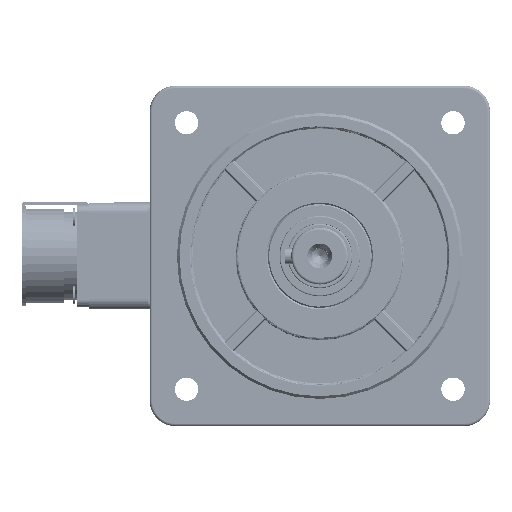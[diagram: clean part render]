
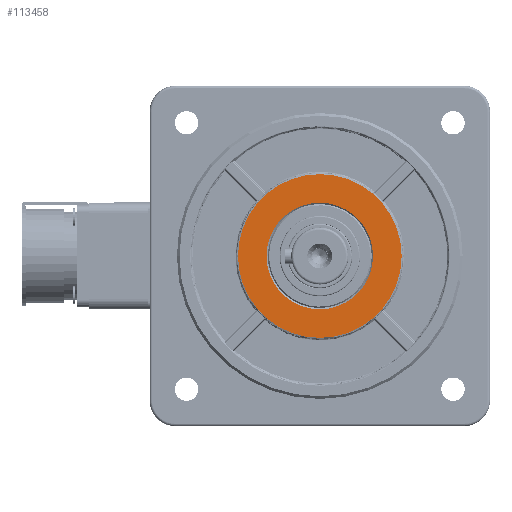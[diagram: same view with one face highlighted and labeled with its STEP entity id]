
A CAD part, left-side view. The second image highlights one B-rep face of the part: STEP entity #113458.
In plain terms, the highlighted planar face has unit normal (-1, 0, 0) as drawn and (1, 0, 0) by its records, which use the part's own axes.
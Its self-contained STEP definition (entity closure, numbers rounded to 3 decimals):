
#285 = DIRECTION ( 'NONE',  ( -1., 0., 0. ) ) ;
#5952 = FACE_OUTER_BOUND ( 'NONE', #74987, .T. ) ;
#9563 = EDGE_CURVE ( 'NONE', #32321, #13910, #84496, .T. ) ;
#13325 = ORIENTED_EDGE ( 'NONE', *, *, #111610, .T. ) ;
#13910 = VERTEX_POINT ( 'NONE', #104874 ) ;
#15676 = EDGE_LOOP ( 'NONE', ( #13325, #83812 ) ) ;
#21386 = AXIS2_PLACEMENT_3D ( 'NONE', #54103, #98707, #143272 ) ;
#24008 = DIRECTION ( 'NONE',  ( 0., 0., 1. ) ) ;
#31427 = EDGE_CURVE ( 'NONE', #13910, #32321, #105544, .T. ) ;
#32321 = VERTEX_POINT ( 'NONE', #111169 ) ;
#39559 = DIRECTION ( 'NONE',  ( 0., 0., 1. ) ) ;
#44849 = DIRECTION ( 'NONE',  ( 0., 0., 1. ) ) ;
#47878 = CARTESIAN_POINT ( 'NONE',  ( 30., 0., 0. ) ) ;
#50541 = PLANE ( 'NONE',  #89475 ) ;
#54103 = CARTESIAN_POINT ( 'NONE',  ( 30., 0., 0. ) ) ;
#56593 = CIRCLE ( 'NONE', #75299, 20.5 ) ;
#66631 = CIRCLE ( 'NONE', #85340, 20.5 ) ;
#74987 = EDGE_LOOP ( 'NONE', ( #117502, #134970 ) ) ;
#75299 = AXIS2_PLACEMENT_3D ( 'NONE', #79611, #124167, #24008 ) ;
#78982 = EDGE_CURVE ( 'NONE', #143688, #80366, #66631, .T. ) ;
#79611 = CARTESIAN_POINT ( 'NONE',  ( 30., 0., 0. ) ) ;
#80366 = VERTEX_POINT ( 'NONE', #87567 ) ;
#83812 = ORIENTED_EDGE ( 'NONE', *, *, #78982, .T. ) ;
#84496 = CIRCLE ( 'NONE', #21386, 31.5 ) ;
#85340 = AXIS2_PLACEMENT_3D ( 'NONE', #100440, #285, #44849 ) ;
#87567 = CARTESIAN_POINT ( 'NONE',  ( 30., 0., -20.5 ) ) ;
#89335 = CARTESIAN_POINT ( 'NONE',  ( 30., 0., 20.5 ) ) ;
#89475 = AXIS2_PLACEMENT_3D ( 'NONE', #95165, #139725, #39559 ) ;
#92525 = DIRECTION ( 'NONE',  ( 1., 0., 0. ) ) ;
#95165 = CARTESIAN_POINT ( 'NONE',  ( 30., 20., 0. ) ) ;
#98707 = DIRECTION ( 'NONE',  ( 1., 0., 0. ) ) ;
#100440 = CARTESIAN_POINT ( 'NONE',  ( 30., 0., 0. ) ) ;
#104874 = CARTESIAN_POINT ( 'NONE',  ( 30., 0., 31.5 ) ) ;
#105544 = CIRCLE ( 'NONE', #124182, 31.5 ) ;
#106142 = FACE_BOUND ( 'NONE', #15676, .T. ) ;
#111169 = CARTESIAN_POINT ( 'NONE',  ( 30., 0., -31.5 ) ) ;
#111610 = EDGE_CURVE ( 'NONE', #80366, #143688, #56593, .T. ) ;
#113458 = ADVANCED_FACE ( 'NONE', ( #106142, #5952 ), #50541, .F. ) ;
#117502 = ORIENTED_EDGE ( 'NONE', *, *, #31427, .T. ) ;
#124167 = DIRECTION ( 'NONE',  ( -1., 0., 0. ) ) ;
#124182 = AXIS2_PLACEMENT_3D ( 'NONE', #47878, #92525, #137085 ) ;
#134970 = ORIENTED_EDGE ( 'NONE', *, *, #9563, .T. ) ;
#137085 = DIRECTION ( 'NONE',  ( 0., 0., 1. ) ) ;
#139725 = DIRECTION ( 'NONE',  ( -1., 0., 0. ) ) ;
#143272 = DIRECTION ( 'NONE',  ( 0., 0., 1. ) ) ;
#143688 = VERTEX_POINT ( 'NONE', #89335 ) ;
